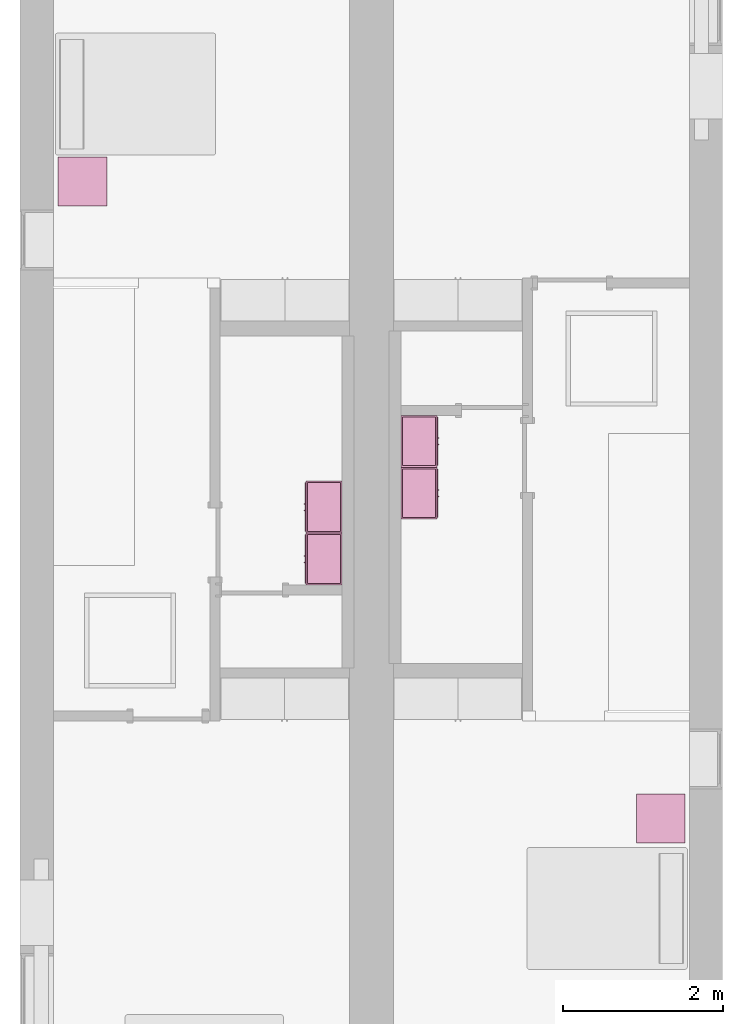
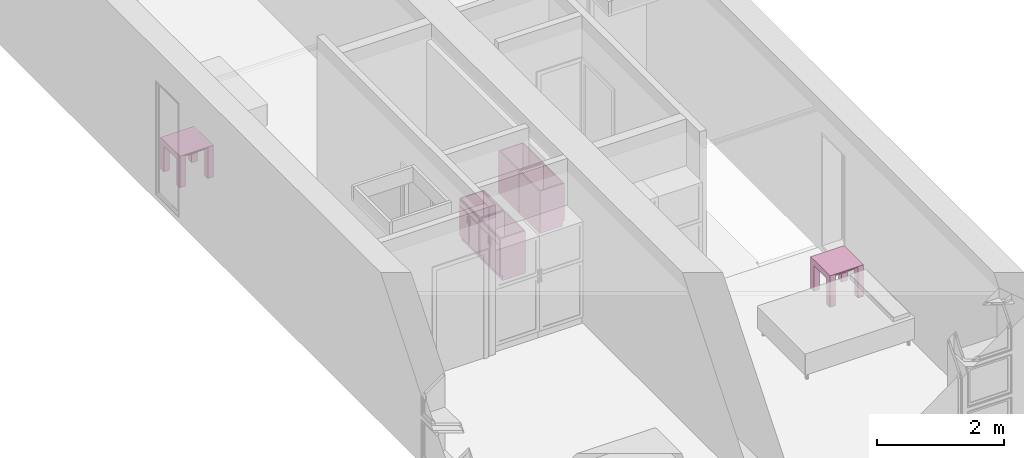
# One storey, part 10 of 16: 6 furnishings.
"""IFC4 building model written with IfcOpenShell, lengths in metres."""

from ifc_helpers import new_model, entity, si_unit, converted_unit, frame, origin, origin_2d_with_axis, place, context, project, spatial, polyline, rectangle, outline, extrude, face_set, surface_model, source, transform, mapped, type_object, type_shapes, element, save


model = new_model("IFC4")

# Units and contexts
model_context = context("Model", 3, precision=1e-09, world=origin())
plan_context = context("Plan", 3, precision=1e-09, world=origin())
ifc_project = project(units=[si_unit("LENGTHUNIT", "METRE"), si_unit("AREAUNIT", "SQUARE_METRE"), si_unit("VOLUMEUNIT", "CUBIC_METRE"), converted_unit("PLANEANGLEUNIT", "DEGREE", entity("IfcRatioMeasure", 0.01745329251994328), si_unit("PLANEANGLEUNIT", "RADIAN"), dimensions=[0, 0, 0, 0, 0, 0, 0]), si_unit("TIMEUNIT", "SECOND")], contexts=[model_context, plan_context])

# Site, building, storey, space
site_placement = place(None, origin())
site = spatial("IfcSite", under=ifc_project, at=site_placement, Name="Default", CompositionType="ELEMENT")
building_placement = place(site_placement, origin())
building = spatial("IfcBuilding", under=site, at=building_placement, CompositionType="ELEMENT")
storey_placement = place(building_placement, frame((0.0, 0.0, 3.100000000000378)))
storey = spatial("IfcBuildingStorey", under=building, at=storey_placement, Name="Level 2", CompositionType="ELEMENT", Elevation=3.100000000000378)
space_1_placement = place(storey_placement, origin())
space_1 = spatial("IfcSpace", under=storey, at=space_1_placement, Name="B204", CompositionType="ELEMENT", PredefinedType="SPACE")

# Furnishings
furniture_type_1 = type_object("IfcFurnitureType", Name="650 x 450 mm", AssemblyPlace="NOTDEFINED")
shared_shape_1 = source(origin(), model_context, "Body", "SurfaceModel", [
    surface_model("IfcFaceBasedSurfaceModel", [(0.6309500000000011, 0.04444999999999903, 0.8199999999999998), (0.6309500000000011, 0.04444999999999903, 0.09999999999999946), (0.01904999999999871, 0.04444999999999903, 0.09999999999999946), (0.01904999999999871, 0.04444999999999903, 0.8199999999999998), (0.6499999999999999, 0.02540000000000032, 0.8199999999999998), (0.0, 0.02540000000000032, 0.8199999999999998), (0.6499999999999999, 0.02540000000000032, 0.09999999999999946), (0.0, 0.02540000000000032, 0.09999999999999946), (0.01904999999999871, 0.4563500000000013, 0.8199999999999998), (0.01904999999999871, 0.4563500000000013, 0.09999999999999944), (0.01904999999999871, 0.06040000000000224, 0.09999999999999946), (0.0, 0.4754, 0.8199999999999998), (0.0, 0.4754, 0.0), (0.0, 0.06040000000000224, 0.0), (0.0, 0.06040000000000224, 0.09999999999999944), (0.6309500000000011, 0.4563500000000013, 0.8199999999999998), (0.6309500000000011, 0.4563500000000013, 0.09999999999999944), (0.6499999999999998, 0.4754, 0.8199999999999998), (0.6499999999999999, 0.4754, 0.0), (0.6309500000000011, 0.06040000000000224, 0.09999999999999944), (0.6499999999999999, 0.06040000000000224, 0.09999999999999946), (0.6499999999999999, 0.06040000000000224, 0.0), (0.2900749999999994, 0.0, 0.6422000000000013), (0.2900749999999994, 0.0, 0.5174698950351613), (0.2773749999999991, 0.0, 0.5174698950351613), (0.2773749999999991, 0.0, 0.6422000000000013), (0.3726249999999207, 0.0, 0.6422000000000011), (0.3726249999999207, 0.0, 0.5174698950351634), (0.3599249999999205, 0.0, 0.5174698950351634), (0.3599249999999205, 0.0, 0.6422000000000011), (0.2900749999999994, 0.01270000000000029, 0.6422000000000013), (0.2900749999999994, 0.01270000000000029, 0.5174698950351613), (0.2773749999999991, 0.01270000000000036, 0.5174698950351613), (0.2773749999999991, 0.01270000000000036, 0.6422000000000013), (0.3726249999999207, 0.01270000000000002, 0.6422000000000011), (0.3726249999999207, 0.01270000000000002, 0.5174698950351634), (0.3599249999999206, 0.01270000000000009, 0.5174698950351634), (0.3599249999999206, 0.01270000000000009, 0.6422000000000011), (0.3154749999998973, 0.01270000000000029, 0.6803000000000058), (0.3154749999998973, 0.01270000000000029, 0.1190499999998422), (0.01905000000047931, 0.01270000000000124, 0.1190499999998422), (0.01905000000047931, 0.01270000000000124, 0.6803000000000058), (0.6309500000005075, 0.01269999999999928, 0.6803000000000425), (0.6309500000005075, 0.01269999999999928, 0.1190499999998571), (0.3345249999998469, 0.01270000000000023, 0.1190499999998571), (0.3345249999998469, 0.01270000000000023, 0.6803000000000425), (0.6309500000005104, 0.01269999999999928, 0.8009500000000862), (0.6309500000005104, 0.01269999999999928, 0.699350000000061), (0.01905000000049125, 0.01270000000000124, 0.699350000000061), (0.01905000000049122, 0.01270000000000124, 0.8009500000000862), (0.3154749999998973, 0.02540000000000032, 0.6803000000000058), (0.3154749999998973, 0.02540000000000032, 0.1190499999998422), (0.01905000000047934, 0.02540000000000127, 0.1190499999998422), (0.01905000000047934, 0.02540000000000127, 0.6803000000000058), (0.6309500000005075, 0.0253999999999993, 0.6803000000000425), (0.6309500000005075, 0.0253999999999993, 0.1190499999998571), (0.3345249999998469, 0.02540000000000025, 0.1190499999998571), (0.3345249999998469, 0.02540000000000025, 0.6803000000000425), (0.6309500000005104, 0.0253999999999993, 0.8009500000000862), (0.6309500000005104, 0.0253999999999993, 0.699350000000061), (0.01905000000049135, 0.02540000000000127, 0.699350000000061), (0.01905000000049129, 0.02540000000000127, 0.8009500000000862), (0.6309500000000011, 0.4563500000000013, 0.119049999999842), (0.6309500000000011, 0.04444999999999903, 0.119049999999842), (0.01904999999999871, 0.04444999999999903, 0.119049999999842), (0.01904999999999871, 0.4563500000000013, 0.119049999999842), (0.6309500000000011, 0.4563500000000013, 0.09999999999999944), (0.6309500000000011, 0.04444999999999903, 0.09999999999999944), (0.01904999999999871, 0.04444999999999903, 0.09999999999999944), (0.01904999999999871, 0.4563500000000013, 0.09999999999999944)], [face_set([[[0, 1, 2, 3]], [[0, 4, 5, 3]], [[4, 6, 7, 5]], [[2, 1, 6, 7]], [[3, 8, 9, 10, 2]], [[5, 11, 8, 3]], [[7, 5, 11, 12, 13, 14]], [[2, 7, 14, 10]], [[8, 15, 16, 9]], [[11, 17, 15, 8]], [[12, 11, 17, 18]], [[1, 19, 16, 15, 0]], [[0, 15, 17, 4]], [[4, 6, 20, 21, 18, 17]], [[6, 1, 19, 20]], [[10, 9, 16, 19]], [[18, 21, 13, 12]], [[13, 14, 10, 19, 20, 21]]]), face_set([[[22, 23, 24, 25]], [[26, 27, 28, 29]], [[30, 31, 32, 33]], [[34, 35, 36, 37]], [[25, 33, 30, 22]], [[24, 32, 33, 25]], [[23, 24, 32, 31]], [[22, 23, 31, 30]], [[29, 37, 34, 26]], [[28, 36, 37, 29]], [[27, 28, 36, 35]], [[26, 27, 35, 34]]]), face_set([[[38, 39, 40, 41]], [[42, 43, 44, 45]], [[46, 47, 48, 49]], [[50, 51, 52, 53]], [[54, 55, 56, 57]], [[58, 59, 60, 61]], [[41, 53, 50, 38]], [[40, 41, 53, 52]], [[39, 40, 52, 51]], [[38, 39, 51, 50]], [[45, 57, 54, 42]], [[44, 56, 57, 45]], [[43, 44, 56, 55]], [[42, 43, 55, 54]], [[49, 61, 58, 46]], [[48, 49, 61, 60]], [[47, 48, 60, 59]], [[46, 47, 59, 58]]]), face_set([[[62, 63, 64, 65]], [[66, 67, 68, 69]], [[65, 62, 66, 69]], [[64, 65, 69, 68]], [[63, 67, 68, 64]], [[62, 63, 67, 66]]])]),
])
type_shapes(furniture_type_1, [shared_shape_1])
for number, where, z_axis, x_axis in (
    (1, (3.554599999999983, -9.32005117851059, 0.01299999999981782), (0.0, 0.0, 1.0), (0.0, -1.0, 0.0)),
    (2, (3.554599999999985, -8.67005117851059, 0.01299999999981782), (0.0, 0.0, 1.0), (0.0, -1.0, 0.0)),
):
    element("IfcFurnishingElement", number, at=place(space_1_placement, frame(where, z_axis=z_axis, x_axis=x_axis)), inside=space_1, type_object=furniture_type_1, Name="M_Vanity Cabinet-Double Door Sink Unit:650 x 450 mm:650 x 450 mm", ObjectType="650 x 450 mm", context=model_context, shape_type="MappedRepresentation", body=[
        mapped(shared_shape_1, transform((0.0, 0.0, 0.0), scale=1.0)),
    ])

# Space
space_2_placement = place(storey_placement, origin())
space_2 = spatial("IfcSpace", under=storey, at=space_2_placement, Name="A204", CompositionType="ELEMENT", PredefinedType="SPACE")

# Furnishings
furniture_type_2 = type_object("IfcFurnitureType", Name="650 x 450 mm", AssemblyPlace="NOTDEFINED")
shared_shape_2 = source(origin(), model_context, "Body", "SurfaceModel", [
    surface_model("IfcFaceBasedSurfaceModel", [(0.6309500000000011, 0.430950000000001, 0.8199999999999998), (0.01904999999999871, 0.430950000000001, 0.8199999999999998), (0.01904999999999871, 0.430950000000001, 0.09999999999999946), (0.6309500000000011, 0.430950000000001, 0.09999999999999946), (0.0, 0.4499999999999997, 0.8199999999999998), (0.6499999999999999, 0.4499999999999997, 0.8199999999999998), (0.0, 0.4499999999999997, 0.09999999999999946), (0.6499999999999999, 0.4499999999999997, 0.09999999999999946), (0.01904999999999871, 0.4149999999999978, 0.09999999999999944), (0.01904999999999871, 0.01904999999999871, 0.09999999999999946), (0.01904999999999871, 0.01904999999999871, 0.8199999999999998), (0.0, 0.0, 0.8199999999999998), (0.0, 0.0, 0.0), (0.0, 0.4149999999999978, 0.0), (0.0, 0.4149999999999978, 0.09999999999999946), (0.6309500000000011, 0.01904999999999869, 0.09999999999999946), (0.6309500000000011, 0.01904999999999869, 0.8199999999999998), (0.6499999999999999, 0.0, 0.8199999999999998), (0.6499999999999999, 0.0, 0.0), (0.6309500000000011, 0.4149999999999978, 0.09999999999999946), (0.6499999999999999, 0.4149999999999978, 0.0), (0.6499999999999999, 0.4149999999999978, 0.09999999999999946), (0.2900749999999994, 0.4753999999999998, 0.6422000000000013), (0.2773749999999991, 0.4753999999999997, 0.6422000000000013), (0.2773749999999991, 0.4753999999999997, 0.5174698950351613), (0.2900749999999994, 0.4753999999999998, 0.5174698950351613), (0.3726249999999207, 0.4754, 0.6422000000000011), (0.3599249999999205, 0.4753999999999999, 0.6422000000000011), (0.3599249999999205, 0.4753999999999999, 0.5174698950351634), (0.3726249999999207, 0.4754, 0.5174698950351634), (0.2900749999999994, 0.4626999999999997, 0.6422000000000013), (0.2773749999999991, 0.4626999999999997, 0.6422000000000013), (0.2773749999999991, 0.4626999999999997, 0.5174698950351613), (0.2900749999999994, 0.4626999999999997, 0.5174698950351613), (0.3726249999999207, 0.4627, 0.6422000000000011), (0.3599249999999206, 0.4626999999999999, 0.6422000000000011), (0.3599249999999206, 0.4626999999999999, 0.5174698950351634), (0.3726249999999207, 0.4627, 0.5174698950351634), (0.3154749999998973, 0.4626999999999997, 0.6803000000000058), (0.01905000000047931, 0.4626999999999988, 0.6803000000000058), (0.01905000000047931, 0.4626999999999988, 0.1190499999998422), (0.3154749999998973, 0.4626999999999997, 0.1190499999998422), (0.6309500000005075, 0.4627000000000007, 0.6803000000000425), (0.3345249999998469, 0.4626999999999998, 0.6803000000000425), (0.3345249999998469, 0.4626999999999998, 0.1190499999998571), (0.6309500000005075, 0.4627000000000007, 0.1190499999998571), (0.6309500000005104, 0.4627000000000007, 0.8009500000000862), (0.01905000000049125, 0.4626999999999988, 0.8009500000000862), (0.01905000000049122, 0.4626999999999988, 0.699350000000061), (0.6309500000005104, 0.4627000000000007, 0.699350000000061), (0.3154749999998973, 0.4499999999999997, 0.6803000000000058), (0.01905000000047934, 0.4499999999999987, 0.6803000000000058), (0.01905000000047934, 0.4499999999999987, 0.1190499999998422), (0.3154749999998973, 0.4499999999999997, 0.1190499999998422), (0.6309500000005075, 0.4500000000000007, 0.6803000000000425), (0.3345249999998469, 0.4499999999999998, 0.6803000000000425), (0.3345249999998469, 0.4499999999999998, 0.1190499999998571), (0.6309500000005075, 0.4500000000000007, 0.1190499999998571), (0.6309500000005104, 0.4500000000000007, 0.8009500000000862), (0.01905000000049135, 0.4499999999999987, 0.8009500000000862), (0.01905000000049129, 0.4499999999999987, 0.699350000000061), (0.6309500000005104, 0.4500000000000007, 0.699350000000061), (0.6309500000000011, 0.01904999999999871, 0.119049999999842), (0.01904999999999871, 0.01904999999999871, 0.119049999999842), (0.01904999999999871, 0.430950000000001, 0.119049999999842), (0.6309500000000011, 0.430950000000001, 0.119049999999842), (0.6309500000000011, 0.01904999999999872, 0.09999999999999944), (0.01904999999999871, 0.01904999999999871, 0.09999999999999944), (0.01904999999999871, 0.430950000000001, 0.09999999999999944), (0.6309500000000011, 0.430950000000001, 0.09999999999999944)], [face_set([[[0, 1, 2, 3]], [[0, 1, 4, 5]], [[5, 4, 6, 7]], [[2, 6, 7, 3]], [[1, 2, 8, 9, 10]], [[4, 1, 10, 11]], [[6, 4, 11, 12, 13, 14]], [[2, 8, 14, 6]], [[10, 9, 15, 16]], [[11, 10, 16, 17]], [[12, 18, 17, 11]], [[3, 0, 16, 15, 19]], [[0, 5, 17, 16]], [[5, 17, 18, 20, 21, 7]], [[7, 21, 19, 3]], [[8, 19, 15, 9]], [[18, 12, 13, 20]], [[13, 20, 21, 19, 8, 14]]]), face_set([[[22, 23, 24, 25]], [[26, 27, 28, 29]], [[30, 31, 32, 33]], [[34, 35, 36, 37]], [[23, 22, 30, 31]], [[24, 23, 31, 32]], [[25, 33, 32, 24]], [[22, 30, 33, 25]], [[27, 26, 34, 35]], [[28, 27, 35, 36]], [[29, 37, 36, 28]], [[26, 34, 37, 29]]]), face_set([[[38, 39, 40, 41]], [[42, 43, 44, 45]], [[46, 47, 48, 49]], [[50, 51, 52, 53]], [[54, 55, 56, 57]], [[58, 59, 60, 61]], [[39, 38, 50, 51]], [[40, 52, 51, 39]], [[41, 53, 52, 40]], [[38, 50, 53, 41]], [[43, 42, 54, 55]], [[44, 43, 55, 56]], [[45, 57, 56, 44]], [[42, 54, 57, 45]], [[47, 46, 58, 59]], [[48, 60, 59, 47]], [[49, 61, 60, 48]], [[46, 58, 61, 49]]]), face_set([[[62, 63, 64, 65]], [[66, 67, 68, 69]], [[63, 67, 66, 62]], [[64, 68, 67, 63]], [[65, 64, 68, 69]], [[62, 66, 69, 65]]])]),
])
type_shapes(furniture_type_2, [shared_shape_2])
for number, where, z_axis, x_axis in (
    (3, (4.770000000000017, -8.495384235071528, 0.01299999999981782), (0.0, 0.0, 1.0), (0.0, -1.0, 0.0)),
    (4, (4.770000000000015, -7.845384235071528, 0.01299999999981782), (0.0, 0.0, 1.0), (0.0, -1.0, 0.0)),
):
    element("IfcFurnishingElement", number, at=place(space_2_placement, frame(where, z_axis=z_axis, x_axis=x_axis)), inside=space_2, type_object=furniture_type_2, Name="M_Vanity Cabinet-Double Door Sink Unit:650 x 450 mm:650 x 450 mm", ObjectType="650 x 450 mm", context=model_context, shape_type="MappedRepresentation", body=[
        mapped(shared_shape_2, transform((0.0, 0.0, 0.0), scale=1.0)),
    ])

# Space
space_3_placement = place(storey_placement, origin())
space_3 = spatial("IfcSpace", under=storey, at=space_3_placement, Name="B203", CompositionType="ELEMENT", PredefinedType="SPACE")

# Furnishing
furniture_type_3 = type_object("IfcFurnitureType", Name="0610 x 0610 x 0610mm", AssemblyPlace="NOTDEFINED")
shared_shape_3 = source(origin(), model_context, "Body", "SweptSolid", [
    extrude(rectangle(XDim=0.4067999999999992, YDim=0.4067999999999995, at=origin_2d_with_axis()), frame((0.01826576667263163, 0.09521107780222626, 0.4957000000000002), z_axis=(0.0, 0.0, 1.0), x_axis=(-1.0, 0.0, 0.0)), (0.0, 0.0, 1.0), 0.01270000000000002),
    extrude(outline(polyline([(-0.2732499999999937, -0.3050000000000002), (0.3240499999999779, -0.3050000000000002), (0.3240499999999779, 0.3049999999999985), (-0.2732499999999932, 0.3049999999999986), (-0.2732499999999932, 0.2034000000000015), (0.2224500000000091, 0.2034000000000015), (0.2224500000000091, -0.2033999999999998), (-0.2732499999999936, -0.2033999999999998), (-0.2732499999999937, -0.3050000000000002)])), frame((0.2216657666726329, 0.09521107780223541, 0.2732499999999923), z_axis=(1.0, 0.0, 0.0), x_axis=(0.0, 0.0, 1.0)), (0.0, 0.0, 1.0), 0.1016),
    extrude(outline(polyline([(-0.3050000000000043, -0.3240500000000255), (0.3049999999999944, -0.3240500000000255), (0.3049999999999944, 0.2732500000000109), (0.2034000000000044, 0.2732500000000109), (0.2034000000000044, -0.2224499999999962), (-0.2033999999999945, -0.2224499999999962), (-0.2033999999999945, 0.2732500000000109), (-0.3050000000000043, 0.2732500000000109), (-0.3050000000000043, -0.3240500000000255)])), frame((-0.2867342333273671, 0.09521107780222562, 0.2732500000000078), z_axis=(1.0, 0.0, 0.0), x_axis=(0.0, -1.0, 0.0)), (0.0, 0.0, 1.0), 0.1016),
    extrude(rectangle(XDim=0.4067999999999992, YDim=0.4067999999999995, at=origin_2d_with_axis()), frame((0.01826576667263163, 0.09521107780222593, 0.5973000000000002), z_axis=(0.0, 0.0, 1.0), x_axis=(-1.0, 0.0, 0.0)), (0.0, 0.0, 1.0), 0.01270000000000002),
    extrude(outline(polyline([(-0.3050000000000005, -0.3050000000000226), (0.3050000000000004, -0.3050000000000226), (0.3050000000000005, 0.3050000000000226), (-0.3050000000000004, 0.3050000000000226), (-0.3050000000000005, -0.3050000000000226)]), holes=[polyline([(-0.203399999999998, -0.2033999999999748), (-0.2033999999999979, 0.2034000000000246), (0.2034000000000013, 0.2034000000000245), (0.2034000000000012, -0.2033999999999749), (-0.203399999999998, -0.2033999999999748)])]), frame((0.01826576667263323, 0.09521107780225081, 0.5973000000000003), z_axis=(0.0, 0.0, 1.0), x_axis=(-1.0, 0.0, 0.0)), (0.0, 0.0, 1.0), 0.01269999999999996),
])
type_shapes(furniture_type_3, [shared_shape_3])
furnishing_1_placement = place(space_3_placement, frame((0.7637342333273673, -5.012211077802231, 0.01899999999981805)))
element("IfcFurnishingElement", 5, at=furnishing_1_placement, inside=space_3, type_object=furniture_type_3, Name="M_Table-Coffee:0610 x 0610 x 0610mm:0610 x 0610 x 0610mm", ObjectType="0610 x 0610 x 0610mm", context=model_context, shape_type="MappedRepresentation", body=[
    mapped(shared_shape_3, transform((0.0, 0.0, 0.0), scale=1.0)),
])

# Space
space_4_placement = place(storey_placement, origin())
space_4 = spatial("IfcSpace", under=storey, at=space_4_placement, Name="A203", CompositionType="ELEMENT", PredefinedType="SPACE")

# Furnishing
furnishing_2_placement = place(space_4_placement, frame((8.004734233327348, -12.98921107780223, 0.01899999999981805)))
element("IfcFurnishingElement", 6, at=furnishing_2_placement, inside=space_4, type_object=furniture_type_3, Name="M_Table-Coffee:0610 x 0610 x 0610mm:0610 x 0610 x 0610mm", ObjectType="0610 x 0610 x 0610mm", context=model_context, shape_type="MappedRepresentation", body=[
    mapped(shared_shape_3, transform((0.0, 0.0, 0.0), scale=1.0)),
])

save(model, "model.ifc")
